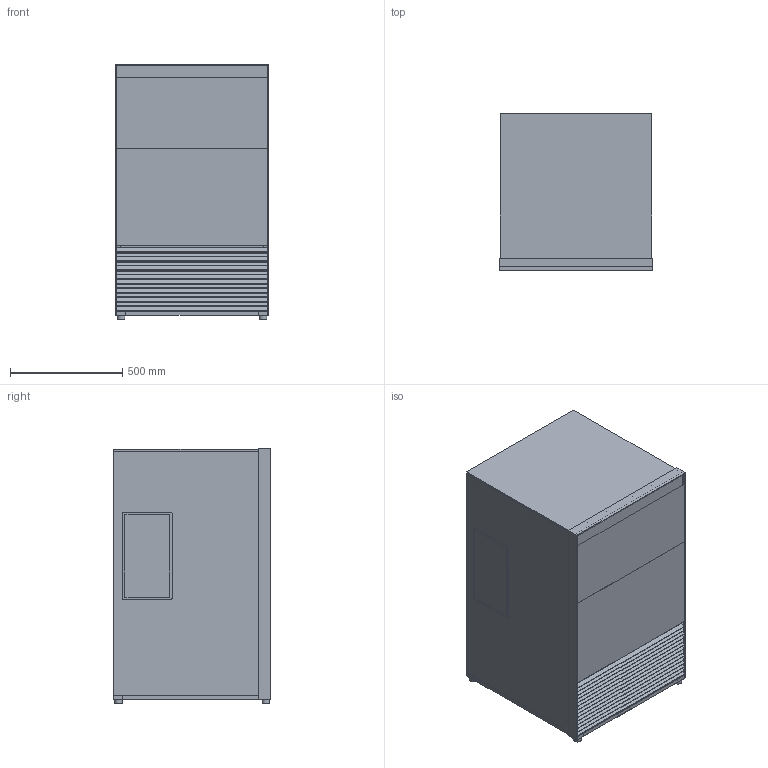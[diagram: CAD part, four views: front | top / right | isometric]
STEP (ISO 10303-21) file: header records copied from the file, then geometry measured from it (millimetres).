
FILE_DESCRIPTION(/* description */ ('Unknown'),/* implementation_level */ '2;1');
FILE_NAME(/* name */ 'P-145',/* time_stamp */ '2018-04-20T11:43:17+02:00',/* author */ ('Unknown'),/* organization */ ('Unknown'),/* preprocessor_version */ 'ST-DEVELOPER v16.7',/* originating_system */ 'DEX',/* authorisation */ $);
FILE_SCHEMA (('CONFIG_CONTROL_DESIGN'));
Length unit declared in the file: millimetre
Products named in the file (58): P-145; 1; 2; 18; 19; 20; 21; 22; 23; 24; 25; 26; 27; 28; 29; 30; 31; 32; 33; 34; 35; 36; 37; 38; 39; 40; 41; 42; 43; 44; 45; 46; 47; 48; 49; 50; 51; 52; 53; 54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
Assembly tree (57 placements, depth 2):
  P-145
    1
    2
    18
    19
    20
    21
    22
    23
    24
    25
    26
    27
    28
    29
    30
    31
    32
    33
    34
    35
    36
    37
    38
    39
    40
    41
    42
    43
    44
    45
    46
    47
    48
    49
    50
    51
    52
    53
    54
    55
    56
    57
    58
    59
    60
    61
    62
    63
    64
    65
    66
    67
    68
    69
    70
    71
    72
Bounding box: 685 x 700.7 x 1140 mm (x, y, z)
Volume: 11061793 mm3; surface area: 8339899.3 mm2
Topology: 57 solids, 57 shells, 428 faces, 922 edges, 608 vertices
Faces by surface type: plane 308, cylinder 120
Full cylindrical faces by diameter (mm): 2 x22, 2.5 x2, 16.336 x1, 20 x4, 30 x1, 31 x4, 33 x4
Entity records: 12843 total; most frequent: DIRECTION 2086, CARTESIAN_POINT 1958, ORIENTED_EDGE 1748, EDGE_CURVE 874, AXIS2_PLACEMENT_3D 726, LINE 634, VECTOR 634, VERTEX_POINT 598
